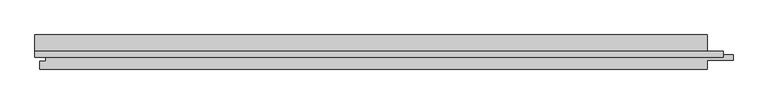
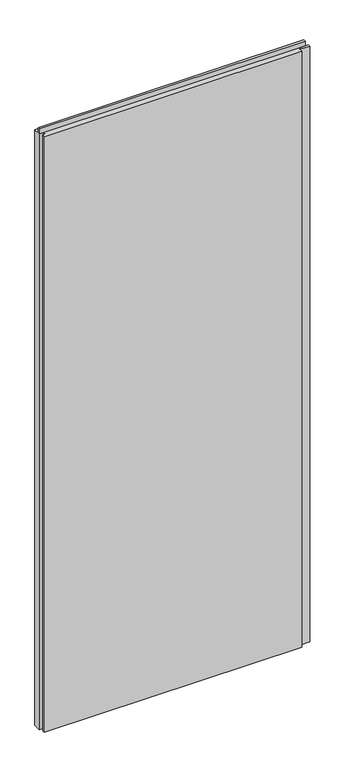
"""IFC4 building model written with IfcOpenShell, lengths in millimetres: plate geometry, Trimo_Qbiss Screen_Normal Panel-VERTICAL : HR - B."""

from ifc_helpers import new_model, si_unit, frame, origin, place, context, project, spatial, polyline, outline, extrude, source, transform, mapped, element, save


def plate_652c8ec9(model_context):
    return source(origin(), model_context, "Body", "SweptSolid", [
        extrude(outline(polyline([(478.0, 97.0), (478.0, 102.6), (499.0, 102.6), (499.0, 97.0), (478.0, 97.0)])), frame((0.0, 0.0, 12.5), z_axis=(0.0, 0.0, 1.0), x_axis=(1.0, 0.0, 0.0)), (0.0, 0.0, 1.0), 2375.0),
        extrude(outline(polyline([(-500.0, 93.9), (-500.0, 102.6), (500.0, 102.6), (500.0, 93.9), (-500.0, 93.9)])), frame((0.0, 0.0, 2390.5), z_axis=(0.0, 0.0, 1.0), x_axis=(1.0, 0.0, 0.0)), (0.0, 0.0, 1.0), 19.0),
        extrude(outline(polyline([(477.0, 97.0), (514.5, 97.0), (514.5, 89.0), (477.0, 89.0), (477.0, 76.0), (-493.0, 76.0), (-493.0, 88.0), (-484.5, 88.0), (-484.5, 98.0), (-500.0, 98.0), (-500.0, 126.0), (477.0, 126.0), (477.0, 97.0)])), frame((0.0, 0.0, 12.5), z_axis=(0.0, 0.0, 1.0), x_axis=(1.0, 0.0, 0.0)), (0.0, 0.0, 1.0), 2375.0),
    ])


if __name__ == "__main__":
    model = new_model("IFC4")
    model_context = context("Model", 3, world=origin())
    ifc_project = project(units=[si_unit("LENGTHUNIT", "METRE", prefix="MILLI")], contexts=[model_context])
    site = spatial("IfcSite", under=ifc_project)
    building = spatial("IfcBuilding", under=site)
    placement = place(None, origin())
    plate_shape = plate_652c8ec9(model_context)
    element("IfcPlate", 1, ObjectType="Trimo_Qbiss Screen_Normal Panel-VERTICAL : HR - B", at=placement, inside=building, context=model_context, shape_type="MappedRepresentation", body=[
        mapped(plate_shape, transform((0.0, 0.0, 0.0), x_axis=(1.0, 0.0, 0.0), y_axis=(0.0, 1.0, 0.0), z_axis=(0.0, 0.0, 1.0))),
    ])
    save(model, "model.ifc")
